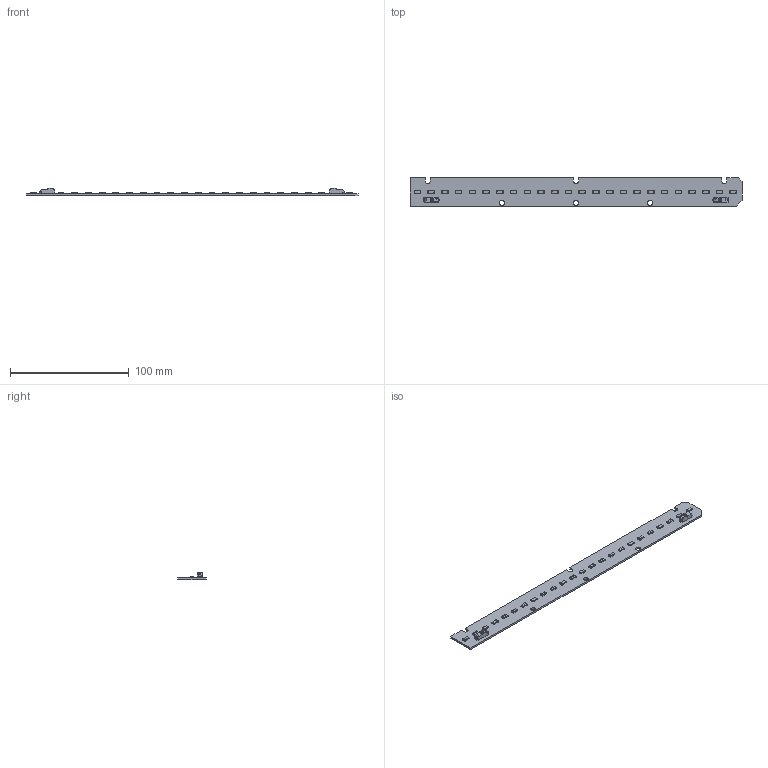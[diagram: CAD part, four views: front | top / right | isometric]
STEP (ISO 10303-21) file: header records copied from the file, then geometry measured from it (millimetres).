
FILE_DESCRIPTION (( 'STEP AP203' ), '1' );
FILE_NAME ('led_module LS282_75746B.STEP', '2016-08-25T08:56:50', ( '' ), ( '' ), 'SwSTEP 2.0', 'SolidWorks 2014', '' );
FILE_SCHEMA (( 'CONFIG_CONTROL_DESIGN' ));
Length unit declared in the file: millimetre
Products named in the file (1): led_module LS282_75746B
Bounding box: 280 x 24 x 5.95 mm (x, y, z)
Volume: 11288.6 mm3; surface area: 16844.5 mm2
Topology: 171 solids, 171 shells, 1619 faces, 3815 edges, 2542 vertices
Faces by surface type: plane 1259, cylinder 262, cone 96, sphere 2
Entity records: 45916 total; most frequent: CARTESIAN_POINT 8067, DIRECTION 7753, ORIENTED_EDGE 7618, EDGE_CURVE 3809, LINE 3065, VECTOR 3065, VERTEX_POINT 2538, AXIS2_PLACEMENT_3D 2344
